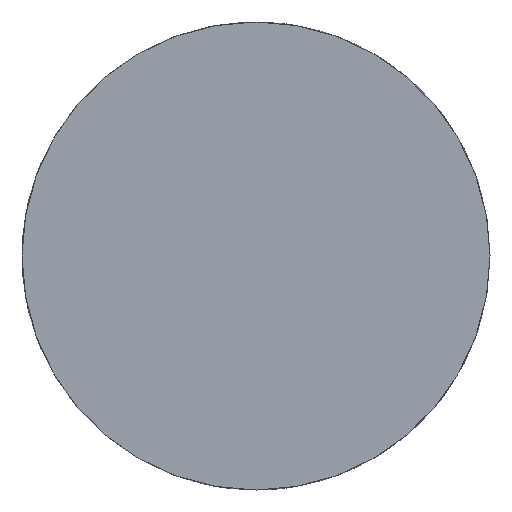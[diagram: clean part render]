
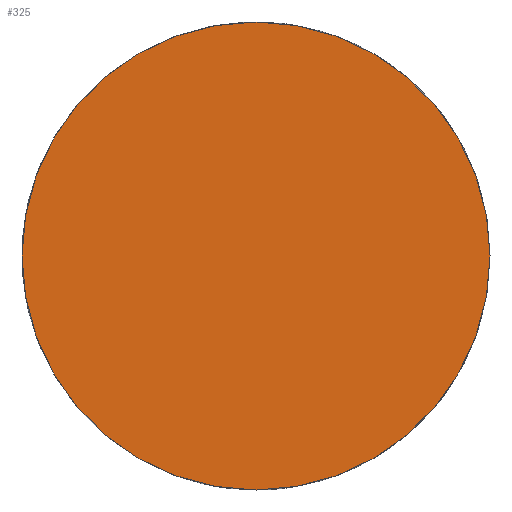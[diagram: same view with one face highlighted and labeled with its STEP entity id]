
A CAD part, left-side view. The second image highlights one B-rep face of the part: STEP entity #325.
In plain terms, the highlighted planar face has unit normal (-1, 0, 0).
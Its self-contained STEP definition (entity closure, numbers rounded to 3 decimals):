
#325 = ADVANCED_FACE( '', ( #654 ), #655, .F. );
#654 = FACE_OUTER_BOUND( '', #983, .T. );
#655 = PLANE( '', #984 );
#983 = EDGE_LOOP( '', ( #1983 ) );
#984 = AXIS2_PLACEMENT_3D( '', #1984, #1985, #1986 );
#1983 = ORIENTED_EDGE( '', *, *, #2202, .F. );
#1984 = CARTESIAN_POINT( '', ( 0., 0., 0. ) );
#1985 = DIRECTION( '', ( 1., 0., 0. ) );
#1986 = DIRECTION( '', ( 0., 0., -1. ) );
#2202 = EDGE_CURVE( '', #2726, #2726, #2727, .T. );
#2726 = VERTEX_POINT( '', #3418 );
#2727 = CIRCLE( '', #3419, 5.825 );
#3418 = CARTESIAN_POINT( '', ( 0., 0., -5.825 ) );
#3419 = AXIS2_PLACEMENT_3D( '', #4152, #4153, #4154 );
#4152 = CARTESIAN_POINT( '', ( 0., 0., 0. ) );
#4153 = DIRECTION( '', ( 1., 0., 0. ) );
#4154 = DIRECTION( '', ( 0., 0., -1. ) );
